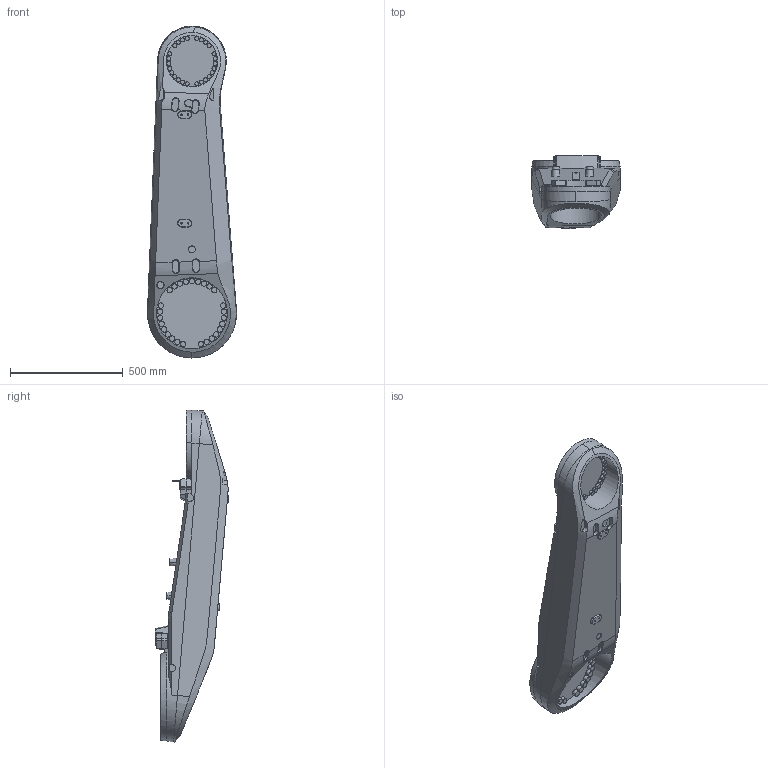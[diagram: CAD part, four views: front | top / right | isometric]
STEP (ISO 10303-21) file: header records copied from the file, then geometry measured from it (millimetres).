
FILE_DESCRIPTION (( 'STEP AP214' ), '1' );
FILE_NAME ('IRB5720-LID_90kg-300_OmniCore_rev00_LINK02_CAD.step', '2025-07-08T10:56:10', ( '' ), ( '' ), 'SwSTEP 2.0', 'SolidWorks 2024', '' );
FILE_SCHEMA (( 'AUTOMOTIVE_DESIGN' ));
Length unit declared in the file: millimetre
Products named in the file (1): IRB5720-LID_90kg-300_OmniCore_rev00_LINK02_CAD
Bounding box: 395.71 x 327 x 1474.18 mm (x, y, z)
Volume: 66400901.8 mm3; surface area: 1811782.9 mm2
Topology: 1 solids, 1 shells, 528 faces, 1272 edges, 821 vertices
Faces by surface type: plane 268, cylinder 162, cone 57, bspline 41
Entity records: 22657 total; most frequent: CARTESIAN_POINT 10388, ORIENTED_EDGE 2524, DIRECTION 2349, EDGE_CURVE 1262, AXIS2_PLACEMENT_3D 846, VERTEX_POINT 821, VECTOR 657, LINE 657
